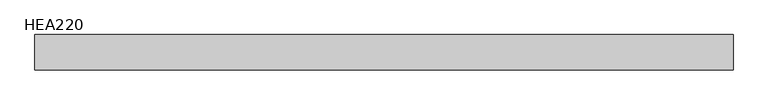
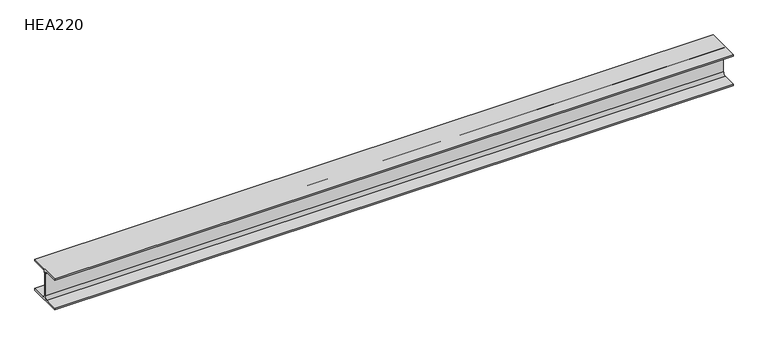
"""IFC4 building model written with IfcOpenShell, lengths in millimetres: beam geometry, HE-A : HEA220."""

from ifc_helpers import new_model, si_unit, point, frame, frame_2d, origin, place, context, project, spatial, polyline, circle_curve, trimmed, segment, composite_curve, outline, extrude, source, transform, mapped, element, save


def hea220_5286604f(model_context):
    return source(origin(), model_context, "Body", "SweptSolid", [
        extrude(outline(composite_curve([segment(polyline([(110.0, -94.0), (110.0, -105.0), (-110.0, -105.0), (-110.0, -94.0), (-21.5, -94.0)]), True, "CONTINUOUS"), segment(trimmed(circle_curve(frame_2d((-21.5, -76.0)), 18.0), [point((-21.5, -94.0))], [point((-3.5, -76.0))], True, "CARTESIAN"), True, "CONTINUOUS"), segment(polyline([(-3.5, -76.0), (-3.5, 76.0)]), True, "CONTINUOUS"), segment(trimmed(circle_curve(frame_2d((-21.5, 76.0)), 18.0), [point((-3.5, 76.0))], [point((-21.5, 94.0))], True, "CARTESIAN"), True, "CONTINUOUS"), segment(polyline([(-21.5, 94.0), (-110.0, 94.0), (-110.0, 105.0), (110.0, 105.0), (110.0, 94.0), (21.5, 94.0)]), True, "CONTINUOUS"), segment(trimmed(circle_curve(frame_2d((21.5, 76.0)), 18.0), [point((21.5, 94.0))], [point((3.5, 76.0))], True, "CARTESIAN"), True, "CONTINUOUS"), segment(polyline([(3.5, 76.0), (3.5, -76.0)]), True, "CONTINUOUS"), segment(trimmed(circle_curve(frame_2d((21.5, -76.0)), 18.0), [point((3.5, -76.0))], [point((21.5, -94.0))], True, "CARTESIAN"), True, "CONTINUOUS"), segment(polyline([(21.5, -94.0), (110.0, -94.0)]), True, "CONTINUOUS")], self_intersect=False)), frame((-2170.35, 0.0, 0.0), z_axis=(1.0, 0.0, 0.0), x_axis=(0.0, 1.0, 0.0)), (0.0, 0.0, 1.0), 4340.7),
    ])


if __name__ == "__main__":
    model = new_model("IFC4")
    model_context = context("Model", 3, world=origin())
    ifc_project = project(units=[si_unit("LENGTHUNIT", "METRE", prefix="MILLI")], contexts=[model_context])
    site = spatial("IfcSite", under=ifc_project)
    building = spatial("IfcBuilding", under=site)
    placement = place(None, origin())
    hea220_shape = hea220_5286604f(model_context)
    element("IfcBeam", 1, ObjectType="HE-A : HEA220", at=placement, inside=building, context=model_context, shape_type="MappedRepresentation", body=[
        mapped(hea220_shape, transform((0.0, 0.0, 0.0), x_axis=(1.0, 0.0, 0.0), y_axis=(0.0, 1.0, 0.0), z_axis=(0.0, 0.0, 1.0))),
    ])
    save(model, "model.ifc")
